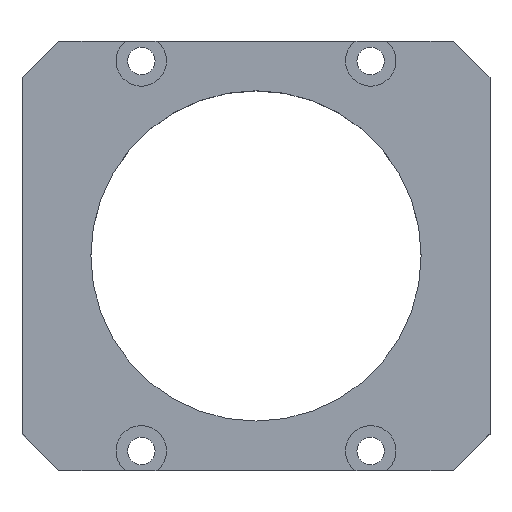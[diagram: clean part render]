
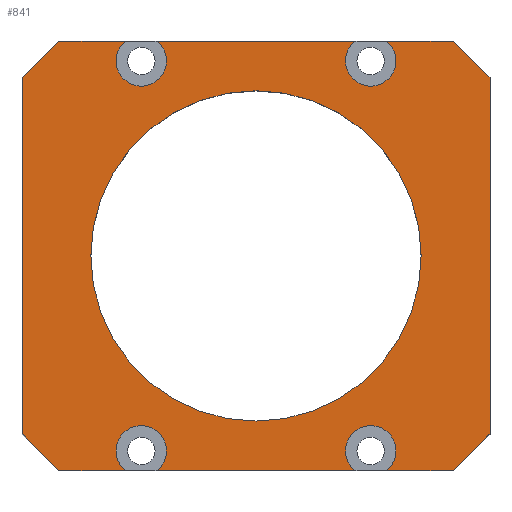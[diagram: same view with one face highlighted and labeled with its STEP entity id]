
A CAD part, top view. The second image highlights one B-rep face of the part: STEP entity #841.
In plain terms, the highlighted planar face has unit normal (0, 0, 1).
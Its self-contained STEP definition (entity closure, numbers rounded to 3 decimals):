
#129=CARTESIAN_POINT('',(-25.,-42.5,22.));
#130=DIRECTION('',(0.,0.,-1.));
#131=DIRECTION('',(-0.624,-0.782,0.));
#132=AXIS2_PLACEMENT_3D('',#129,#130,#131);
#139=CARTESIAN_POINT('',(0.,0.,22.));
#140=DIRECTION('',(0.,0.,1.));
#141=DIRECTION('',(1.,0.,0.));
#142=AXIS2_PLACEMENT_3D('',#139,#140,#141);
#144=CARTESIAN_POINT('',(0.,0.,22.));
#145=DIRECTION('',(0.,0.,1.));
#146=DIRECTION('',(-1.,0.,0.));
#147=AXIS2_PLACEMENT_3D('',#144,#145,#146);
#149=DIRECTION('',(-1.,0.,0.));
#150=VECTOR('',#149,14.571);
#151=CARTESIAN_POINT('',(43.,46.8,22.));
#152=LINE('',#151,#150);
#153=DIRECTION('',(-0.707,0.707,0.));
#154=VECTOR('',#153,11.314);
#155=CARTESIAN_POINT('',(51.,38.8,22.));
#156=LINE('',#155,#154);
#157=DIRECTION('',(0.,1.,0.));
#158=VECTOR('',#157,77.6);
#159=CARTESIAN_POINT('',(51.,-38.8,22.));
#160=LINE('',#159,#158);
#161=DIRECTION('',(0.707,0.707,0.));
#162=VECTOR('',#161,11.314);
#163=CARTESIAN_POINT('',(43.,-46.8,22.));
#164=LINE('',#163,#162);
#165=DIRECTION('',(1.,0.,0.));
#166=VECTOR('',#165,14.571);
#167=CARTESIAN_POINT('',(28.429,-46.8,22.));
#168=LINE('',#167,#166);
#169=DIRECTION('',(1.,0.,0.));
#170=VECTOR('',#169,43.141);
#171=CARTESIAN_POINT('',(-21.571,-46.8,22.));
#172=LINE('',#171,#170);
#173=DIRECTION('',(1.,0.,0.));
#174=VECTOR('',#173,14.571);
#175=CARTESIAN_POINT('',(-43.,-46.8,22.));
#176=LINE('',#175,#174);
#177=DIRECTION('',(0.707,-0.707,0.));
#178=VECTOR('',#177,11.314);
#179=CARTESIAN_POINT('',(-51.,-38.8,22.));
#180=LINE('',#179,#178);
#181=DIRECTION('',(0.,-1.,0.));
#182=VECTOR('',#181,77.6);
#183=CARTESIAN_POINT('',(-51.,38.8,22.));
#184=LINE('',#183,#182);
#185=DIRECTION('',(-0.707,-0.707,0.));
#186=VECTOR('',#185,11.314);
#187=CARTESIAN_POINT('',(-43.,46.8,22.));
#188=LINE('',#187,#186);
#189=DIRECTION('',(-1.,0.,0.));
#190=VECTOR('',#189,14.571);
#191=CARTESIAN_POINT('',(-28.429,46.8,22.));
#192=LINE('',#191,#190);
#193=DIRECTION('',(-1.,0.,0.));
#194=VECTOR('',#193,43.141);
#195=CARTESIAN_POINT('',(21.571,46.8,22.));
#196=LINE('',#195,#194);
#303=CARTESIAN_POINT('',(25.,42.5,22.));
#304=DIRECTION('',(0.,0.,-1.));
#305=DIRECTION('',(0.624,0.782,0.));
#306=AXIS2_PLACEMENT_3D('',#303,#304,#305);
#345=CARTESIAN_POINT('',(-25.,42.5,22.));
#346=DIRECTION('',(0.,0.,-1.));
#347=DIRECTION('',(0.624,0.782,0.));
#348=AXIS2_PLACEMENT_3D('',#345,#346,#347);
#363=CARTESIAN_POINT('',(25.,-42.5,22.));
#364=DIRECTION('',(0.,0.,-1.));
#365=DIRECTION('',(-0.624,-0.782,0.));
#366=AXIS2_PLACEMENT_3D('',#363,#364,#365);
#449=CARTESIAN_POINT('',(51.,38.8,22.));
#450=VERTEX_POINT('',#449);
#451=CARTESIAN_POINT('',(43.,46.8,22.));
#452=VERTEX_POINT('',#451);
#457=CARTESIAN_POINT('',(-43.,46.8,22.));
#458=VERTEX_POINT('',#457);
#459=CARTESIAN_POINT('',(-51.,38.8,22.));
#460=VERTEX_POINT('',#459);
#465=CARTESIAN_POINT('',(-51.,-38.8,22.));
#466=VERTEX_POINT('',#465);
#467=CARTESIAN_POINT('',(-43.,-46.8,22.));
#468=VERTEX_POINT('',#467);
#473=CARTESIAN_POINT('',(43.,-46.8,22.));
#474=VERTEX_POINT('',#473);
#475=CARTESIAN_POINT('',(51.,-38.8,22.));
#476=VERTEX_POINT('',#475);
#509=CARTESIAN_POINT('',(36.,0.,22.));
#510=CARTESIAN_POINT('',(-36.,0.,22.));
#511=VERTEX_POINT('',#509);
#512=VERTEX_POINT('',#510);
#541=CARTESIAN_POINT('',(-28.429,-46.8,22.));
#542=VERTEX_POINT('',#541);
#543=CARTESIAN_POINT('',(-21.571,-46.8,22.));
#544=VERTEX_POINT('',#543);
#545=CARTESIAN_POINT('',(21.571,-46.8,22.));
#546=VERTEX_POINT('',#545);
#547=CARTESIAN_POINT('',(28.429,-46.8,22.));
#548=VERTEX_POINT('',#547);
#557=CARTESIAN_POINT('',(28.429,46.8,22.));
#558=VERTEX_POINT('',#557);
#559=CARTESIAN_POINT('',(21.571,46.8,22.));
#560=VERTEX_POINT('',#559);
#561=CARTESIAN_POINT('',(-21.571,46.8,22.));
#562=VERTEX_POINT('',#561);
#563=CARTESIAN_POINT('',(-28.429,46.8,22.));
#564=VERTEX_POINT('',#563);
#803=CARTESIAN_POINT('',(0.,0.,22.));
#804=DIRECTION('',(0.,0.,1.));
#805=DIRECTION('',(1.,0.,0.));
#806=AXIS2_PLACEMENT_3D('',#803,#804,#805);
#807=PLANE('',#806);
#809=ORIENTED_EDGE('',*,*,#808,.F.);
#811=ORIENTED_EDGE('',*,*,#810,.F.);
#812=ORIENTED_EDGE('',*,*,#655,.F.);
#813=ORIENTED_EDGE('',*,*,#671,.F.);
#814=ORIENTED_EDGE('',*,*,#684,.F.);
#815=ORIENTED_EDGE('',*,*,#707,.F.);
#817=ORIENTED_EDGE('',*,*,#816,.F.);
#818=ORIENTED_EDGE('',*,*,#699,.F.);
#819=ORIENTED_EDGE('',*,*,#795,.F.);
#820=ORIENTED_EDGE('',*,*,#713,.F.);
#822=ORIENTED_EDGE('',*,*,#821,.F.);
#824=ORIENTED_EDGE('',*,*,#823,.F.);
#826=ORIENTED_EDGE('',*,*,#825,.F.);
#828=ORIENTED_EDGE('',*,*,#827,.F.);
#830=ORIENTED_EDGE('',*,*,#829,.F.);
#832=ORIENTED_EDGE('',*,*,#831,.F.);
#833=EDGE_LOOP('',(#809,#811,#812,#813,#814,#815,#817,#818,#819,#820,#822,#824,
#826,#828,#830,#832));
#834=FACE_OUTER_BOUND('',#833,.F.);
#836=ORIENTED_EDGE('',*,*,#835,.T.);
#838=ORIENTED_EDGE('',*,*,#837,.T.);
#839=EDGE_LOOP('',(#836,#838));
#840=FACE_BOUND('',#839,.F.);
#133=CIRCLE('',#132,5.5);
#143=CIRCLE('',#142,36.);
#148=CIRCLE('',#147,36.);
#307=CIRCLE('',#306,5.5);
#349=CIRCLE('',#348,5.5);
#367=CIRCLE('',#366,5.5);
#655=EDGE_CURVE('',#450,#452,#156,.T.);
#671=EDGE_CURVE('',#476,#450,#160,.T.);
#684=EDGE_CURVE('',#474,#476,#164,.T.);
#699=EDGE_CURVE('',#544,#546,#172,.T.);
#707=EDGE_CURVE('',#548,#474,#168,.T.);
#713=EDGE_CURVE('',#468,#542,#176,.T.);
#795=EDGE_CURVE('',#542,#544,#133,.T.);
#808=EDGE_CURVE('',#558,#560,#307,.T.);
#810=EDGE_CURVE('',#452,#558,#152,.T.);
#816=EDGE_CURVE('',#546,#548,#367,.T.);
#821=EDGE_CURVE('',#466,#468,#180,.T.);
#823=EDGE_CURVE('',#460,#466,#184,.T.);
#825=EDGE_CURVE('',#458,#460,#188,.T.);
#827=EDGE_CURVE('',#564,#458,#192,.T.);
#829=EDGE_CURVE('',#562,#564,#349,.T.);
#831=EDGE_CURVE('',#560,#562,#196,.T.);
#835=EDGE_CURVE('',#511,#512,#143,.T.);
#837=EDGE_CURVE('',#512,#511,#148,.T.);
#841=ADVANCED_FACE('',(#834,#840),#807,.T.);
